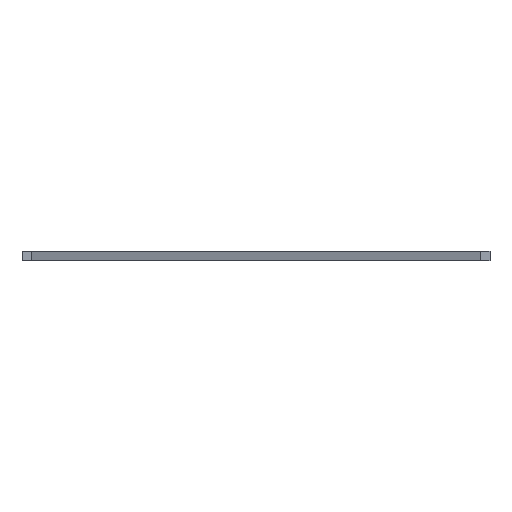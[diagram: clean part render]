
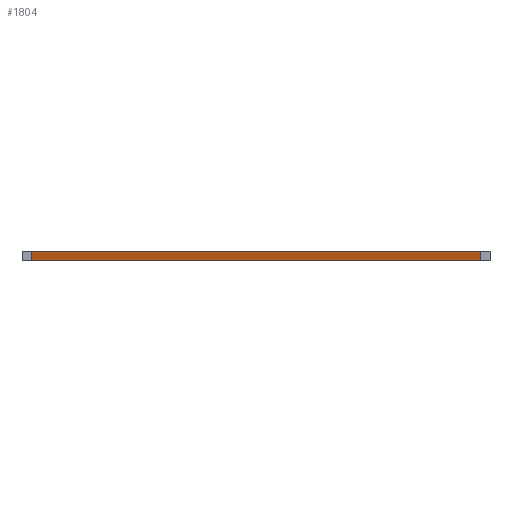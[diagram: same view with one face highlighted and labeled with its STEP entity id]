
A CAD part, left-side view. The second image highlights one B-rep face of the part: STEP entity #1804.
In plain terms, the highlighted planar face has unit normal (-0.932, 0.361, 0).
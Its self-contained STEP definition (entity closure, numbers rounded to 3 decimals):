
#21 = EDGE_CURVE('',#22,#24,#26,.T.);
#22 = VERTEX_POINT('',#23);
#23 = CARTESIAN_POINT('',(19.306,18.,0.));
#24 = VERTEX_POINT('',#25);
#25 = CARTESIAN_POINT('',(19.306,18.,18.));
#26 = SURFACE_CURVE('',#27,(#31,#43),.PCURVE_S1.);
#27 = LINE('',#28,#29);
#28 = CARTESIAN_POINT('',(19.306,18.,0.));
#29 = VECTOR('',#30,1.);
#30 = DIRECTION('',(0.,0.,1.));
#31 = PCURVE('',#32,#37);
#32 = PLANE('',#33);
#33 = AXIS2_PLACEMENT_3D('',#34,#35,#36);
#34 = CARTESIAN_POINT('',(19.306,18.,0.));
#35 = DIRECTION('',(0.,1.,0.));
#36 = DIRECTION('',(1.,0.,0.));
#37 = DEFINITIONAL_REPRESENTATION('',(#38),#42);
#38 = LINE('',#39,#40);
#39 = CARTESIAN_POINT('',(0.,0.));
#40 = VECTOR('',#41,1.);
#41 = DIRECTION('',(0.,-1.));
#42 = ( GEOMETRIC_REPRESENTATION_CONTEXT(2) 
PARAMETRIC_REPRESENTATION_CONTEXT() REPRESENTATION_CONTEXT('2D SPACE',''
  ) );
#43 = PCURVE('',#44,#49);
#44 = PLANE('',#45);
#45 = AXIS2_PLACEMENT_3D('',#46,#47,#48);
#46 = CARTESIAN_POINT('',(354.306,882.,0.));
#47 = DIRECTION('',(0.932,-0.362,0.));
#48 = DIRECTION('',(-0.362,-0.932,0.));
#49 = DEFINITIONAL_REPRESENTATION('',(#50),#54);
#50 = LINE('',#51,#52);
#51 = CARTESIAN_POINT('',(926.672,0.));
#52 = VECTOR('',#53,1.);
#53 = DIRECTION('',(0.,-1.));
#54 = ( GEOMETRIC_REPRESENTATION_CONTEXT(2) 
PARAMETRIC_REPRESENTATION_CONTEXT() REPRESENTATION_CONTEXT('2D SPACE',''
  ) );
#72 = PLANE('',#73);
#73 = AXIS2_PLACEMENT_3D('',#74,#75,#76);
#74 = CARTESIAN_POINT('',(525.,358.504,18.));
#75 = DIRECTION('',(0.,0.,1.));
#76 = DIRECTION('',(1.,0.,-0.));
#126 = PLANE('',#127);
#127 = AXIS2_PLACEMENT_3D('',#128,#129,#130);
#128 = CARTESIAN_POINT('',(525.,358.504,0.));
#129 = DIRECTION('',(0.,0.,1.));
#130 = DIRECTION('',(1.,0.,-0.));
#1701 = PLANE('',#1702);
#1702 = AXIS2_PLACEMENT_3D('',#1703,#1704,#1705);
#1703 = CARTESIAN_POINT('',(380.,882.,0.));
#1704 = DIRECTION('',(0.,-1.,0.));
#1705 = DIRECTION('',(-1.,0.,0.));
#1739 = VERTEX_POINT('',#1740);
#1740 = CARTESIAN_POINT('',(354.306,882.,18.));
#1761 = EDGE_CURVE('',#1762,#1739,#1764,.T.);
#1762 = VERTEX_POINT('',#1763);
#1763 = CARTESIAN_POINT('',(354.306,882.,0.));
#1764 = SURFACE_CURVE('',#1765,(#1769,#1776),.PCURVE_S1.);
#1765 = LINE('',#1766,#1767);
#1766 = CARTESIAN_POINT('',(354.306,882.,0.));
#1767 = VECTOR('',#1768,1.);
#1768 = DIRECTION('',(0.,0.,1.));
#1769 = PCURVE('',#1701,#1770);
#1770 = DEFINITIONAL_REPRESENTATION('',(#1771),#1775);
#1771 = LINE('',#1772,#1773);
#1772 = CARTESIAN_POINT('',(25.694,0.));
#1773 = VECTOR('',#1774,1.);
#1774 = DIRECTION('',(0.,-1.));
#1775 = ( GEOMETRIC_REPRESENTATION_CONTEXT(2) 
PARAMETRIC_REPRESENTATION_CONTEXT() REPRESENTATION_CONTEXT('2D SPACE',''
  ) );
#1776 = PCURVE('',#44,#1777);
#1777 = DEFINITIONAL_REPRESENTATION('',(#1778),#1782);
#1778 = LINE('',#1779,#1780);
#1779 = CARTESIAN_POINT('',(0.,0.));
#1780 = VECTOR('',#1781,1.);
#1781 = DIRECTION('',(0.,-1.));
#1782 = ( GEOMETRIC_REPRESENTATION_CONTEXT(2) 
PARAMETRIC_REPRESENTATION_CONTEXT() REPRESENTATION_CONTEXT('2D SPACE',''
  ) );
#1804 = ADVANCED_FACE('',(#1805),#44,.F.);
#1805 = FACE_BOUND('',#1806,.F.);
#1806 = EDGE_LOOP('',(#1807,#1808,#1829,#1830));
#1807 = ORIENTED_EDGE('',*,*,#1761,.T.);
#1808 = ORIENTED_EDGE('',*,*,#1809,.T.);
#1809 = EDGE_CURVE('',#1739,#24,#1810,.T.);
#1810 = SURFACE_CURVE('',#1811,(#1815,#1822),.PCURVE_S1.);
#1811 = LINE('',#1812,#1813);
#1812 = CARTESIAN_POINT('',(354.306,882.,18.));
#1813 = VECTOR('',#1814,1.);
#1814 = DIRECTION('',(-0.362,-0.932,0.));
#1815 = PCURVE('',#44,#1816);
#1816 = DEFINITIONAL_REPRESENTATION('',(#1817),#1821);
#1817 = LINE('',#1818,#1819);
#1818 = CARTESIAN_POINT('',(0.,-18.));
#1819 = VECTOR('',#1820,1.);
#1820 = DIRECTION('',(1.,0.));
#1821 = ( GEOMETRIC_REPRESENTATION_CONTEXT(2) 
PARAMETRIC_REPRESENTATION_CONTEXT() REPRESENTATION_CONTEXT('2D SPACE',''
  ) );
#1822 = PCURVE('',#72,#1823);
#1823 = DEFINITIONAL_REPRESENTATION('',(#1824),#1828);
#1824 = LINE('',#1825,#1826);
#1825 = CARTESIAN_POINT('',(-170.694,523.496));
#1826 = VECTOR('',#1827,1.);
#1827 = DIRECTION('',(-0.362,-0.932));
#1828 = ( GEOMETRIC_REPRESENTATION_CONTEXT(2) 
PARAMETRIC_REPRESENTATION_CONTEXT() REPRESENTATION_CONTEXT('2D SPACE',''
  ) );
#1829 = ORIENTED_EDGE('',*,*,#21,.F.);
#1830 = ORIENTED_EDGE('',*,*,#1831,.F.);
#1831 = EDGE_CURVE('',#1762,#22,#1832,.T.);
#1832 = SURFACE_CURVE('',#1833,(#1837,#1844),.PCURVE_S1.);
#1833 = LINE('',#1834,#1835);
#1834 = CARTESIAN_POINT('',(354.306,882.,0.));
#1835 = VECTOR('',#1836,1.);
#1836 = DIRECTION('',(-0.362,-0.932,0.));
#1837 = PCURVE('',#44,#1838);
#1838 = DEFINITIONAL_REPRESENTATION('',(#1839),#1843);
#1839 = LINE('',#1840,#1841);
#1840 = CARTESIAN_POINT('',(0.,0.));
#1841 = VECTOR('',#1842,1.);
#1842 = DIRECTION('',(1.,0.));
#1843 = ( GEOMETRIC_REPRESENTATION_CONTEXT(2) 
PARAMETRIC_REPRESENTATION_CONTEXT() REPRESENTATION_CONTEXT('2D SPACE',''
  ) );
#1844 = PCURVE('',#126,#1845);
#1845 = DEFINITIONAL_REPRESENTATION('',(#1846),#1850);
#1846 = LINE('',#1847,#1848);
#1847 = CARTESIAN_POINT('',(-170.694,523.496));
#1848 = VECTOR('',#1849,1.);
#1849 = DIRECTION('',(-0.362,-0.932));
#1850 = ( GEOMETRIC_REPRESENTATION_CONTEXT(2) 
PARAMETRIC_REPRESENTATION_CONTEXT() REPRESENTATION_CONTEXT('2D SPACE',''
  ) );
